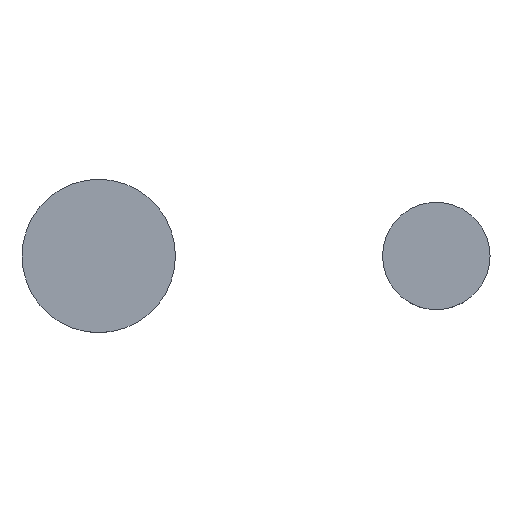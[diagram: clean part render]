
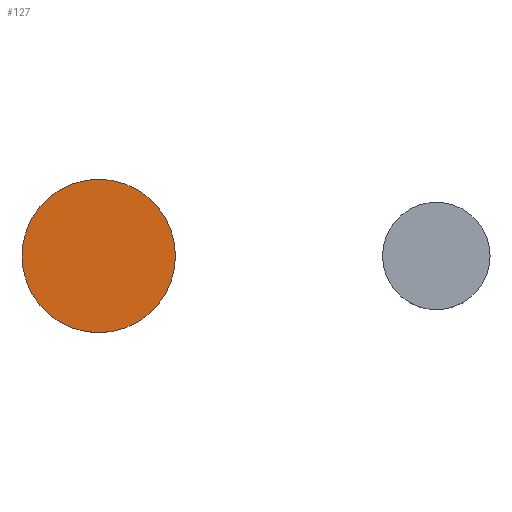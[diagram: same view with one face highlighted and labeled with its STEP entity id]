
A CAD part, top view. The second image highlights one B-rep face of the part: STEP entity #127.
In plain terms, the highlighted planar face has unit normal (0, 0, 1).
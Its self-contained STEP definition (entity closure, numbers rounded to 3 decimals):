
#43 = EDGE_CURVE('',#44,#44,#46,.T.);
#44 = VERTEX_POINT('',#45);
#45 = CARTESIAN_POINT('',(10.,0.,0.75));
#46 = SURFACE_CURVE('',#47,(#52,#64),.PCURVE_S1.);
#47 = CIRCLE('',#48,10.);
#48 = AXIS2_PLACEMENT_3D('',#49,#50,#51);
#49 = CARTESIAN_POINT('',(0.,0.,0.75));
#50 = DIRECTION('',(0.,0.,1.));
#51 = DIRECTION('',(1.,0.,-0.));
#52 = PCURVE('',#53,#58);
#53 = CYLINDRICAL_SURFACE('',#54,10.);
#54 = AXIS2_PLACEMENT_3D('',#55,#56,#57);
#55 = CARTESIAN_POINT('',(0.,0.,-0.75));
#56 = DIRECTION('',(0.,0.,1.));
#57 = DIRECTION('',(1.,0.,-0.));
#58 = DEFINITIONAL_REPRESENTATION('',(#59),#63);
#59 = LINE('',#60,#61);
#60 = CARTESIAN_POINT('',(0.,1.5));
#61 = VECTOR('',#62,1.);
#62 = DIRECTION('',(1.,0.));
#63 = ( GEOMETRIC_REPRESENTATION_CONTEXT(2) 
PARAMETRIC_REPRESENTATION_CONTEXT() REPRESENTATION_CONTEXT('2D SPACE',''
  ) );
#64 = PCURVE('',#65,#70);
#65 = PLANE('',#66);
#66 = AXIS2_PLACEMENT_3D('',#67,#68,#69);
#67 = CARTESIAN_POINT('',(0.,0.,0.75));
#68 = DIRECTION('',(0.,0.,1.));
#69 = DIRECTION('',(1.,0.,-0.));
#70 = DEFINITIONAL_REPRESENTATION('',(#71),#75);
#71 = CIRCLE('',#72,10.);
#72 = AXIS2_PLACEMENT_2D('',#73,#74);
#73 = CARTESIAN_POINT('',(0.,0.));
#74 = DIRECTION('',(1.,0.));
#75 = ( GEOMETRIC_REPRESENTATION_CONTEXT(2) 
PARAMETRIC_REPRESENTATION_CONTEXT() REPRESENTATION_CONTEXT('2D SPACE',''
  ) );
#127 = ADVANCED_FACE('',(#128),#65,.T.);
#128 = FACE_BOUND('',#129,.T.);
#129 = EDGE_LOOP('',(#130));
#130 = ORIENTED_EDGE('',*,*,#43,.T.);
